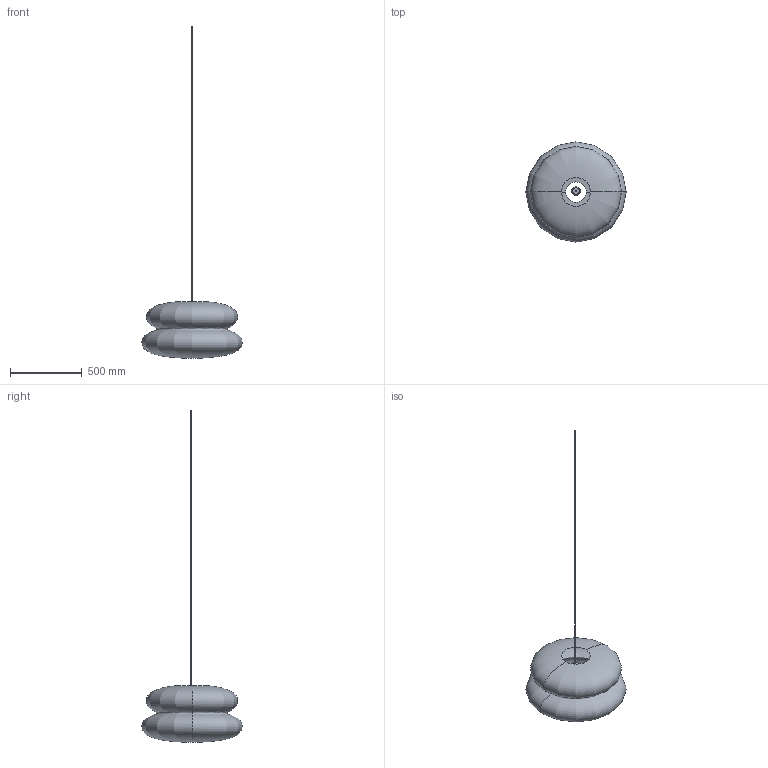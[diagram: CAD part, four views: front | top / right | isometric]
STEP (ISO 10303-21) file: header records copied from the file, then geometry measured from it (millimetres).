
FILE_DESCRIPTION(/* description */ (''),/* implementation_level */ '2;1');
FILE_NAME(/* name */ 'SNOWMAN70 P',/* time_stamp */ '2026-08-05T16:49:37+09:00',/* author */ (''),/* organization */ (''),/* preprocessor_version */ 'ST-DEVELOPER v19.2',/* originating_system */ 'Rhino 8.21',/* authorisation */ '');
FILE_SCHEMA (('CONFIG_CONTROL_DESIGN'));
Length unit declared in the file: millimetre
Products named in the file (1): Document
Bounding box: 699.94 x 699.94 x 2319.21 mm (x, y, z)
Surface area: 1397521.6 mm2 (no closed solid volume)
Topology: 0 solids, 2 shells, 10 faces, 25 edges, 15 vertices
Faces by surface type: bspline 4, cylinder 4, plane 2
Entity records: 2963 total; most frequent: CARTESIAN_POINT 2672, DIRECTION 38, ORIENTED_EDGE 36, AXIS2_PLACEMENT_3D 22, EDGE_CURVE 21, VERTEX_POINT 15, TRIMMED_CURVE 14, CIRCLE 14
